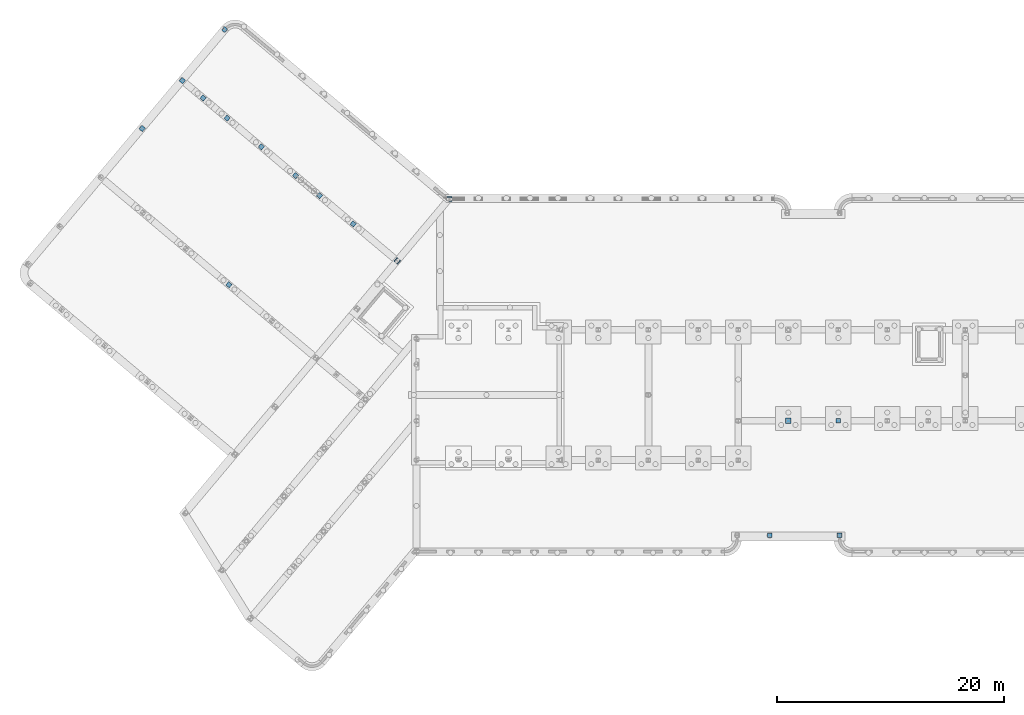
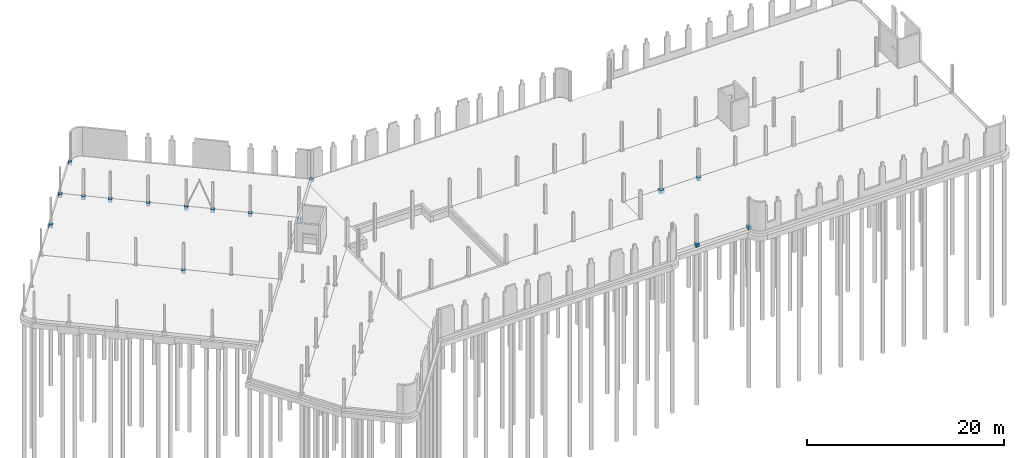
# One storey, part 16 of 26: 16 columns.
"""IFC2X3 building model written with IfcOpenShell, lengths in millimetres."""

from ifc_helpers import new_model, entity, si_unit, converted_unit, derived_unit, direction, frame, frame_2d, origin, origin_2d_with_axis, place, context, subcontext, project, spatial, polyline, rectangle, outline, extrude, source, transform, mapped, material, type_object, type_shapes, element, save


model = new_model("IFC2X3")

# Units and contexts
model_context = context("Model", 3, precision=0.01, world=origin(), true_north=direction((6.123031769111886e-17, 1.0)))
body_context = subcontext(model_context, "Body", "Model", "MODEL_VIEW")
ifc_project = project(units=[si_unit("LENGTHUNIT", "METRE", prefix="MILLI"), si_unit("AREAUNIT", "SQUARE_METRE"), si_unit("VOLUMEUNIT", "CUBIC_METRE"), derived_unit("MASSDENSITYUNIT", [(si_unit("MASSUNIT", "GRAM", prefix="KILO"), 1), (si_unit("LENGTHUNIT", "METRE"), -3)]), si_unit("MASSUNIT", "GRAM", prefix="KILO"), converted_unit("PLANEANGLEUNIT", "DEGREE", entity("IfcPlaneAngleMeasure", 0.017453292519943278), si_unit("PLANEANGLEUNIT", "RADIAN"), dimensions=[0, 0, 0, 0, 0, 0, 0])], contexts=[model_context])

# Site, building, storey
site_placement = place(None, origin())
site = spatial("IfcSite", under=ifc_project, at=site_placement, Name="Default", CompositionType="ELEMENT")
building_placement = place(site_placement, origin())
building = spatial("IfcBuilding", under=site, at=building_placement, Name="AT constructie", CompositionType="ELEMENT")
storey_placement = place(building_placement, origin())
storey = spatial("IfcBuildingStorey", under=building, at=storey_placement, Name="00 begane grond", CompositionType="ELEMENT", Elevation=-1.0828671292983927e-12)

# Columns
ifc_material = material(Name="f2_beton ihwg_gen")
column_type_1 = type_object("IfcColumnType", Name="opstorting vierkant_gen_lxb 400x400", PredefinedType="COLUMN", material=ifc_material)
shared_shape_1 = source(origin(), body_context, "Body", "SweptSolid", [
    extrude(rectangle(XDim=399.9999999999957, YDim=400.0, at=frame_2d((8.668621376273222e-12, -2.383160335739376e-11), x_axis=(1.0, 0.0))), frame((78246.87463111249, 23271.043508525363, -450.0), z_axis=(0.0, 0.0, 1.0), x_axis=(-1.0, 0.0, 0.0)), (0.0, 0.0, 1.0), 400.0),
])
type_shapes(column_type_1, [shared_shape_1])
column_1_placement = place(storey_placement, origin())
element("IfcColumn", 1, at=column_1_placement, inside=storey, type_object=column_type_1, material=ifc_material, Name="NLRS_16_SC_TLB_opstorting beton_gen_AT:opstorting vierkant_gen_lxb 400x400", ObjectType="NLRS_16_SC_TLB_opstorting beton_gen_AT:opstorting vierkant_gen_lxb 400x400", context=body_context, shape_type="MappedRepresentation", body=[
    mapped(shared_shape_1, transform((0.0, 0.0, 0.0), scale=1.0)),
])
column_type_2 = type_object("IfcColumnType", Name="opstorting vierkant_gen_lxb 500x500", PredefinedType="COLUMN", material=ifc_material)
shared_shape_2 = source(origin(), body_context, "Body", "SweptSolid", [
    extrude(rectangle(XDim=499.999999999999, YDim=499.999999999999, at=frame_2d((4.334310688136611e-12, -3.0311753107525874e-11), x_axis=(1.0, 0.0))), frame((73846.87463111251, 23271.04350852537, -450.0), z_axis=(0.0, 0.0, 1.0), x_axis=(-1.0, 0.0, 0.0)), (0.0, 0.0, 1.0), 400.0),
])
type_shapes(column_type_2, [shared_shape_2])
column_2_placement = place(storey_placement, origin())
element("IfcColumn", 2, at=column_2_placement, inside=storey, type_object=column_type_2, material=ifc_material, Name="NLRS_16_SC_TLB_opstorting beton_gen_AT:opstorting vierkant_gen_lxb 500x500", ObjectType="NLRS_16_SC_TLB_opstorting beton_gen_AT:opstorting vierkant_gen_lxb 500x500", context=body_context, shape_type="MappedRepresentation", body=[
    mapped(shared_shape_2, transform((0.0, 0.0, 0.0), scale=1.0)),
])
column_type_3 = type_object("IfcColumnType", Name="opstorting vierkant_gen_lxb 400x400", PredefinedType="COLUMN", material=ifc_material)
shared_shape_3 = source(origin(), body_context, "Body", "SweptSolid", [
    extrude(rectangle(XDim=399.9999999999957, YDim=400.0, at=frame_2d((-21.857143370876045, -76.42857142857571), x_axis=(1.0, 0.0))), frame((78326.51748953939, 13129.614939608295, -450.0), z_axis=(0.0, 0.0, 1.0), x_axis=(-1.0, 0.0, 0.0)), (0.0, 0.0, 1.0), 400.0),
])
type_shapes(column_type_3, [shared_shape_3])
column_3_placement = place(storey_placement, origin())
element("IfcColumn", 3, at=column_3_placement, inside=storey, type_object=column_type_3, material=ifc_material, Name="NLRS_16_SC_TLB_opstorting beton_gen_AT:opstorting vierkant_gen_lxb 400x400", ObjectType="NLRS_16_SC_TLB_opstorting beton_gen_AT:opstorting vierkant_gen_lxb 400x400", context=body_context, shape_type="MappedRepresentation", body=[
    mapped(shared_shape_3, transform((0.0, 0.0, 0.0), scale=1.0)),
])
column_type_4 = type_object("IfcColumnType", Name="opstorting vierkant_gen_lxb 400x400", PredefinedType="COLUMN", material=ifc_material)
shared_shape_4 = source(origin(), body_context, "Body", "SweptSolid", [
    extrude(rectangle(XDim=399.9999999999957, YDim=400.0, at=frame_2d((-8.668621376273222e-12, -41.666666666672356), x_axis=(1.0, 0.0))), frame((72204.37460725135, 13154.376844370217, -450.0), z_axis=(0.0, 0.0, 1.0), x_axis=(-1.0, 0.0, 0.0)), (0.0, 0.0, 1.0), 400.0),
])
type_shapes(column_type_4, [shared_shape_4])
column_4_placement = place(storey_placement, origin())
element("IfcColumn", 4, at=column_4_placement, inside=storey, type_object=column_type_4, material=ifc_material, Name="NLRS_16_SC_TLB_opstorting beton_gen_AT:opstorting vierkant_gen_lxb 400x400", ObjectType="NLRS_16_SC_TLB_opstorting beton_gen_AT:opstorting vierkant_gen_lxb 400x400", context=body_context, shape_type="MappedRepresentation", body=[
    mapped(shared_shape_4, transform((0.0, 0.0, 0.0), scale=1.0)),
])
column_type_5 = type_object("IfcColumnType", Name="opstorting vierkant_gen_lxb 400x400", PredefinedType="COLUMN", material=ifc_material)
shared_shape_5 = source(origin(), body_context, "Body", "SweptSolid", [
    extrude(rectangle(XDim=75.00000000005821, YDim=399.99999999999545, at=origin_2d_with_axis()), frame((39587.25068949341, 37228.17541351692, -450.0), z_axis=(0.0, 0.0, 1.0), x_axis=(-0.7660444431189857, 0.6427876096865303, 0.0)), (0.0, 0.0, 1.0), 399.99999999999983),
    extrude(rectangle(XDim=74.99999999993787, YDim=399.99999999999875, at=frame_2d((7.500000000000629, -2.7569058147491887e-12), x_axis=(1.0, 0.0))), frame((39332.54091215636, 37441.9022937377, -450.0), z_axis=(0.0, 0.0, 1.0), x_axis=(0.7660444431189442, -0.6427876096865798, 0.0)), (0.0, 0.0, 1.0), 399.99999999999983),
])
type_shapes(column_type_5, [shared_shape_5])
column_5_placement = place(storey_placement, origin())
element("IfcColumn", 5, at=column_5_placement, inside=storey, type_object=column_type_5, material=ifc_material, Name="NLRS_16_SC_TLB_opstorting beton_gen_AT:opstorting vierkant_gen_lxb 400x400", ObjectType="NLRS_16_SC_TLB_opstorting beton_gen_AT:opstorting vierkant_gen_lxb 400x400", context=body_context, shape_type="MappedRepresentation", body=[
    mapped(shared_shape_5, transform((0.0, 0.0, 0.0), scale=1.0)),
])
column_type_6 = type_object("IfcColumnType", Name="opstorting vierkant_gen_lxb 400x400", PredefinedType="COLUMN", material=ifc_material)
shared_shape_6 = source(origin(), body_context, "Body", "SweptSolid", [
    extrude(rectangle(XDim=399.99999999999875, YDim=400.0000000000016, at=frame_2d((-1.6626700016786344e-12, -1.3926637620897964e-12), x_axis=(1.0, 0.0))), frame((35590.413807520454, 40581.91976705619, -450.0), z_axis=(0.0, 0.0, 1.0), x_axis=(-0.7660444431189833, 0.642787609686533, 0.0)), (0.0, 0.0, 1.0), 399.99999999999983),
])
type_shapes(column_type_6, [shared_shape_6])
column_6_placement = place(storey_placement, origin())
element("IfcColumn", 6, at=column_6_placement, inside=storey, type_object=column_type_6, material=ifc_material, Name="NLRS_16_SC_TLB_opstorting beton_gen_AT:opstorting vierkant_gen_lxb 400x400", ObjectType="NLRS_16_SC_TLB_opstorting beton_gen_AT:opstorting vierkant_gen_lxb 400x400", context=body_context, shape_type="MappedRepresentation", body=[
    mapped(shared_shape_6, transform((0.0, 0.0, 0.0), scale=1.0)),
])
column_type_7 = type_object("IfcColumnType", Name="opstorting vierkant_gen_lxb 400x400", PredefinedType="COLUMN", material=ifc_material)
shared_shape_7 = source(origin(), body_context, "Body", "SweptSolid", [
    extrude(rectangle(XDim=399.99999999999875, YDim=400.00000000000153, at=frame_2d((-4.973799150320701e-12, -4.177991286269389e-12), x_axis=(1.0, 0.0))), frame((32625.821812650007, 43069.50781654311, -450.0), z_axis=(0.0, 0.0, 1.0), x_axis=(-0.7660444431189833, 0.642787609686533, 0.0)), (0.0, 0.0, 1.0), 399.99999999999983),
])
type_shapes(column_type_7, [shared_shape_7])
column_7_placement = place(storey_placement, origin())
element("IfcColumn", 7, at=column_7_placement, inside=storey, type_object=column_type_7, material=ifc_material, Name="NLRS_16_SC_TLB_opstorting beton_gen_AT:opstorting vierkant_gen_lxb 400x400", ObjectType="NLRS_16_SC_TLB_opstorting beton_gen_AT:opstorting vierkant_gen_lxb 400x400", context=body_context, shape_type="MappedRepresentation", body=[
    mapped(shared_shape_7, transform((0.0, 0.0, 0.0), scale=1.0)),
])
column_type_8 = type_object("IfcColumnType", Name="opstorting vierkant_gen_lxb 400x400", PredefinedType="COLUMN", material=ifc_material)
shared_shape_8 = source(origin(), body_context, "Body", "SweptSolid", [
    extrude(rectangle(XDim=399.99999999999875, YDim=400.0000000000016, at=frame_2d((-2.7142732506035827e-12, -1.361399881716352e-11), x_axis=(1.0, 0.0))), frame((30523.02861003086, 44833.96081730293, -450.0), z_axis=(0.0, 0.0, 1.0), x_axis=(-0.7660444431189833, 0.642787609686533, 0.0)), (0.0, 0.0, 1.0), 399.99999999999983),
])
type_shapes(column_type_8, [shared_shape_8])
column_8_placement = place(storey_placement, origin())
element("IfcColumn", 8, at=column_8_placement, inside=storey, type_object=column_type_8, material=ifc_material, Name="NLRS_16_SC_TLB_opstorting beton_gen_AT:opstorting vierkant_gen_lxb 400x400", ObjectType="NLRS_16_SC_TLB_opstorting beton_gen_AT:opstorting vierkant_gen_lxb 400x400", context=body_context, shape_type="MappedRepresentation", body=[
    mapped(shared_shape_8, transform((0.0, 0.0, 0.0), scale=1.0)),
])
column_type_9 = type_object("IfcColumnType", Name="opstorting vierkant_gen_lxb 400x400", PredefinedType="COLUMN", material=ifc_material)
shared_shape_9 = source(origin(), body_context, "Body", "SweptSolid", [
    extrude(rectangle(XDim=399.99999999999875, YDim=400.0000000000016, at=frame_2d((2.8421709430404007e-12, -2.0236257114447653e-11), x_axis=(1.0, 0.0))), frame((27512.475154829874, 47360.115111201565, -450.0), z_axis=(0.0, 0.0, 1.0), x_axis=(-0.7660444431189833, 0.642787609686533, 0.0)), (0.0, 0.0, 1.0), 399.99999999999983),
])
type_shapes(column_type_9, [shared_shape_9])
column_9_placement = place(storey_placement, origin())
element("IfcColumn", 9, at=column_9_placement, inside=storey, type_object=column_type_9, material=ifc_material, Name="NLRS_16_SC_TLB_opstorting beton_gen_AT:opstorting vierkant_gen_lxb 400x400", ObjectType="NLRS_16_SC_TLB_opstorting beton_gen_AT:opstorting vierkant_gen_lxb 400x400", context=body_context, shape_type="MappedRepresentation", body=[
    mapped(shared_shape_9, transform((0.0, 0.0, 0.0), scale=1.0)),
])
column_type_10 = type_object("IfcColumnType", Name="opstorting vierkant_gen_lxb 400x400", PredefinedType="COLUMN", material=ifc_material)
shared_shape_10 = source(origin(), body_context, "Body", "SweptSolid", [
    extrude(rectangle(XDim=399.99999999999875, YDim=400.0000000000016, at=frame_2d((5.115907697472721e-12, -2.964384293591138e-11), x_axis=(1.0, 0.0))), frame((24509.58093780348, 49879.842541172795, -450.0), z_axis=(0.0, 0.0, 1.0), x_axis=(-0.7660444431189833, 0.642787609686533, 0.0)), (0.0, 0.0, 1.0), 399.99999999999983),
])
type_shapes(column_type_10, [shared_shape_10])
column_10_placement = place(storey_placement, origin())
element("IfcColumn", 10, at=column_10_placement, inside=storey, type_object=column_type_10, material=ifc_material, Name="NLRS_16_SC_TLB_opstorting beton_gen_AT:opstorting vierkant_gen_lxb 400x400", ObjectType="NLRS_16_SC_TLB_opstorting beton_gen_AT:opstorting vierkant_gen_lxb 400x400", context=body_context, shape_type="MappedRepresentation", body=[
    mapped(shared_shape_10, transform((0.0, 0.0, 0.0), scale=1.0)),
])
column_type_11 = type_object("IfcColumnType", Name="opstorting vierkant_gen_lxb 400x400", PredefinedType="COLUMN", material=ifc_material)
shared_shape_11 = source(origin(), body_context, "Body", "SweptSolid", [
    extrude(rectangle(XDim=399.99999999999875, YDim=400.0000000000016, at=frame_2d((-4.689582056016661e-13, -2.3007373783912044e-11), x_axis=(1.0, 0.0))), frame((22399.128497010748, 51650.72240585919, -450.0), z_axis=(0.0, 0.0, 1.0), x_axis=(-0.7660444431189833, 0.642787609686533, 0.0)), (0.0, 0.0, 1.0), 399.99999999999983),
])
type_shapes(column_type_11, [shared_shape_11])
column_11_placement = place(storey_placement, origin())
element("IfcColumn", 11, at=column_11_placement, inside=storey, type_object=column_type_11, material=ifc_material, Name="NLRS_16_SC_TLB_opstorting beton_gen_AT:opstorting vierkant_gen_lxb 400x400", ObjectType="NLRS_16_SC_TLB_opstorting beton_gen_AT:opstorting vierkant_gen_lxb 400x400", context=body_context, shape_type="MappedRepresentation", body=[
    mapped(shared_shape_11, transform((0.0, 0.0, 0.0), scale=1.0)),
])
column_type_12 = type_object("IfcColumnType", Name="opstorting vierkant_gen_lxb 400x400", PredefinedType="COLUMN", material=ifc_material)
shared_shape_12 = source(origin(), body_context, "Body", "SweptSolid", [
    extrude(rectangle(XDim=399.9999999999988, YDim=400.0000000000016, at=frame_2d((-3.5714285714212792, -2.4655832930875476e-11), x_axis=(1.0, 0.0))), frame((20567.461516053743, 53187.673494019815, -450.0), z_axis=(0.0, 0.0, 1.0), x_axis=(-0.7660444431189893, 0.6427876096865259, 0.0)), (0.0, 0.0, 1.0), 399.9999999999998),
])
type_shapes(column_type_12, [shared_shape_12])
column_12_placement = place(storey_placement, origin())
element("IfcColumn", 12, at=column_12_placement, inside=storey, type_object=column_type_12, material=ifc_material, Name="NLRS_16_SC_TLB_opstorting beton_gen_AT:opstorting vierkant_gen_lxb 400x400", ObjectType="NLRS_16_SC_TLB_opstorting beton_gen_AT:opstorting vierkant_gen_lxb 400x400", context=body_context, shape_type="MappedRepresentation", body=[
    mapped(shared_shape_12, transform((0.0, 0.0, 0.0), scale=1.0)),
])
column_type_13 = type_object("IfcColumnType", Name="opstorting vierkant_gen_lxb 400x400", PredefinedType="COLUMN", material=ifc_material)
shared_shape_13 = source(origin(), body_context, "Body", "SweptSolid", [
    extrude(rectangle(XDim=341.9284406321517, YDim=400.0000000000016, at=frame_2d((27.260906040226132, 1.0828671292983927e-11), x_axis=(1.0, 0.0))), frame((24270.187378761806, 57682.43628212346, -450.0), z_axis=(0.0, 0.0, 1.0), x_axis=(0.7660444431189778, -0.6427876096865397, 0.0)), (0.0, 0.0, 1.0), 399.9999999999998),
])
type_shapes(column_type_13, [shared_shape_13])
column_13_placement = place(storey_placement, origin())
element("IfcColumn", 13, at=column_13_placement, inside=storey, type_object=column_type_13, material=ifc_material, Name="NLRS_16_SC_TLB_opstorting beton_gen_AT:opstorting vierkant_gen_lxb 400x400", ObjectType="NLRS_16_SC_TLB_opstorting beton_gen_AT:opstorting vierkant_gen_lxb 400x400", context=body_context, shape_type="MappedRepresentation", body=[
    mapped(shared_shape_13, transform((0.0, 0.0, 0.0), scale=1.0)),
])
column_type_14 = type_object("IfcColumnType", Name="opstorting vierkant_gen_lxb 400x400", PredefinedType="COLUMN", material=ifc_material)
shared_shape_14 = source(origin(), body_context, "Body", "SweptSolid", [
    extrude(rectangle(XDim=399.99999999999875, YDim=400.0000000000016, at=frame_2d((-37.50000000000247, -3.339550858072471e-12), x_axis=(1.0, 0.0))), frame((17006.138869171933, 48996.23792219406, -450.0), z_axis=(0.0, 0.0, 1.0), x_axis=(-0.7660444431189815, 0.6427876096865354, 0.0)), (0.0, 0.0, 1.0), 399.99999999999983),
])
type_shapes(column_type_14, [shared_shape_14])
column_14_placement = place(storey_placement, origin())
element("IfcColumn", 14, at=column_14_placement, inside=storey, type_object=column_type_14, material=ifc_material, Name="NLRS_16_SC_TLB_opstorting beton_gen_AT:opstorting vierkant_gen_lxb 400x400", ObjectType="NLRS_16_SC_TLB_opstorting beton_gen_AT:opstorting vierkant_gen_lxb 400x400", context=body_context, shape_type="MappedRepresentation", body=[
    mapped(shared_shape_14, transform((0.0, 0.0, 0.0), scale=1.0)),
])
column_type_15 = type_object("IfcColumnType", Name="opstorting vierkant_gen_lxb 400x400", PredefinedType="COLUMN", material=ifc_material)
shared_shape_15 = source(origin(), body_context, "Body", "SweptSolid", [
    extrude(rectangle(XDim=400.0000000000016, YDim=399.9999999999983, at=frame_2d((2.4158453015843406e-13, 3.069544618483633e-12), x_axis=(1.0, 0.0))), frame((24662.802545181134, 35228.61825311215, -450.0), z_axis=(0.0, 0.0, 1.0), x_axis=(-0.7660444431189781, 0.6427876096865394, 0.0)), (0.0, 0.0, 1.0), 399.99999999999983),
])
type_shapes(column_type_15, [shared_shape_15])
column_15_placement = place(storey_placement, origin())
element("IfcColumn", 15, at=column_15_placement, inside=storey, type_object=column_type_15, material=ifc_material, Name="NLRS_16_SC_TLB_opstorting beton_gen_AT:opstorting vierkant_gen_lxb 400x400", ObjectType="NLRS_16_SC_TLB_opstorting beton_gen_AT:opstorting vierkant_gen_lxb 400x400", context=body_context, shape_type="MappedRepresentation", body=[
    mapped(shared_shape_15, transform((0.0, 0.0, 0.0), scale=1.0)),
])
column_type_16 = type_object("IfcColumnType", Name="opstorting vierkant_gen_lxb 400x400", PredefinedType="COLUMN", material=ifc_material)
shared_shape_16 = source(origin(), body_context, "Body", "SweptSolid", [
    extrude(outline(polyline([(-43.90260516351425, -178.11154989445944), (-21.38957934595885, -178.11154989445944), (54.59739483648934, -87.55380042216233), (54.597394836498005, 221.88845010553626), (-43.90260516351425, 221.88845010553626), (-43.90260516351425, -178.11154989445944)])), frame((44034.42843153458, 42925.64090336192, -450.0), z_axis=(0.0, 0.0, 1.0), x_axis=(0.0, -1.0, 0.0)), (0.0, 0.0, 1.0), 400.0),
    extrude(outline(polyline([(-107.23607574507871, -25.749999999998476), (85.6292602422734, -25.749999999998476), (128.84289124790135, 25.749999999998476), (-107.23607574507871, 25.749999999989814), (-107.23607574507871, -25.749999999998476)])), frame((44149.08080589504, 42595.29350852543, -450.0), z_axis=(0.0, 0.0, 1.0), x_axis=(-1.0, 0.0, 0.0)), (0.0, 0.0, 1.0), 400.0),
])
type_shapes(column_type_16, [shared_shape_16])
column_16_placement = place(storey_placement, origin())
element("IfcColumn", 16, at=column_16_placement, inside=storey, type_object=column_type_16, material=ifc_material, Name="NLRS_16_SC_TLB_opstorting beton_gen_AT:opstorting vierkant_gen_lxb 400x400", ObjectType="NLRS_16_SC_TLB_opstorting beton_gen_AT:opstorting vierkant_gen_lxb 400x400", context=body_context, shape_type="MappedRepresentation", body=[
    mapped(shared_shape_16, transform((0.0, 0.0, 0.0), scale=1.0)),
])

save(model, "model.ifc")
